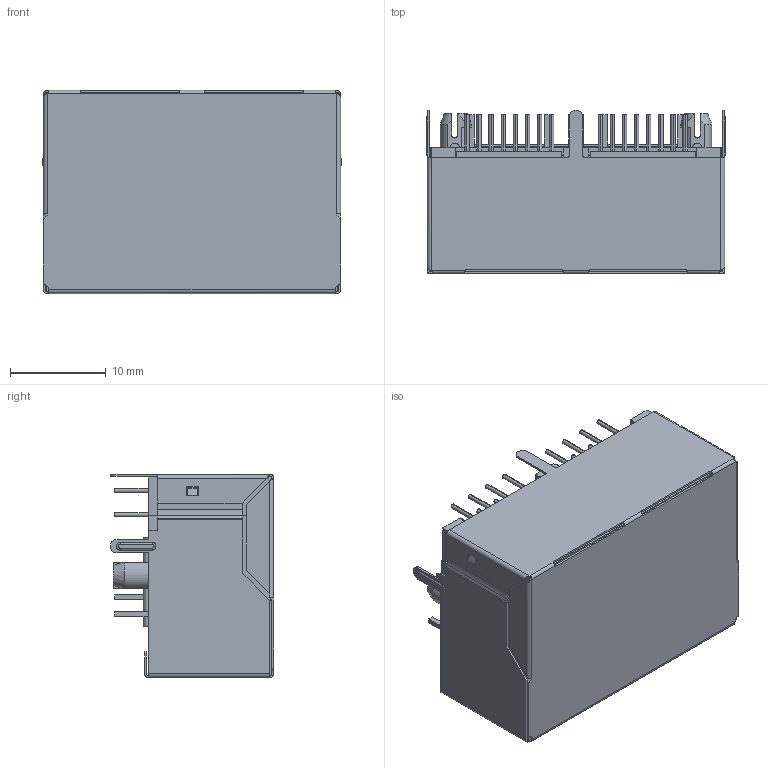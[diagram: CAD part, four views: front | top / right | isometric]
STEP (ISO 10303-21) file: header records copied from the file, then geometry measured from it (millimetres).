
FILE_DESCRIPTION((''),'2;1');
FILE_NAME('DGKYD59211288AB1A1D3Y1006','2022-11-23T09:21:36',('Administrator'),(''),'CREO PARAMETRIC BY PTC INC, 2019010','CREO PARAMETRIC BY PTC INC, 2019010','');
FILE_SCHEMA(('CONFIG_CONTROL_DESIGN'));
Length unit declared in the file: millimetre
Products named in the file (1): DGKYD59211288AB1A1D3Y1006
Bounding box: 31.32 x 17.1 x 21.27 mm (x, y, z)
Volume: 4924.7 mm3; surface area: 12305.7 mm2
Topology: 9 solids, 18 shells, 1531 faces, 4143 edges, 2561 vertices
Faces by surface type: plane 910, cylinder 425, cone 68, torus 68, bspline 60
Entity records: 51781 total; most frequent: CARTESIAN_POINT 13752, ORIENTED_EDGE 8226, DIRECTION 7459, EDGE_CURVE 4143, VECTOR 2911, LINE 2911, VERTEX_POINT 2567, AXIS2_PLACEMENT_3D 2274
